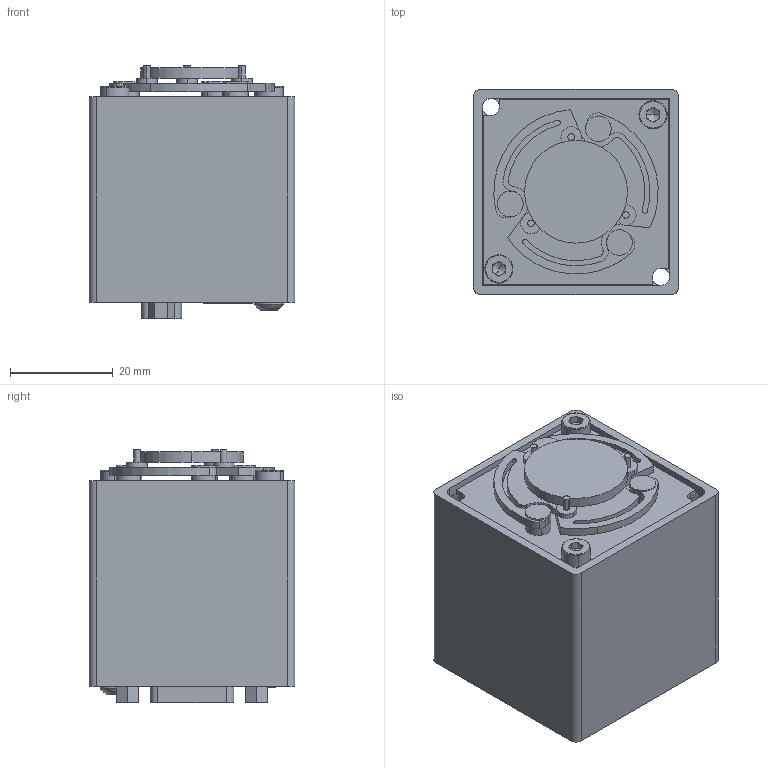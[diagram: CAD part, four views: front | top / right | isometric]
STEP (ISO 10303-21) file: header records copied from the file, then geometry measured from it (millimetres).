
FILE_DESCRIPTION (( 'STEP AP214' ), '1' );
FILE_NAME ('Model3D_CYS-A20.STEP', '2010-09-16T04:15:23', ( '' ), ( '' ), 'SwSTEP 2.0', 'SolidWorks 2011', '' );
FILE_SCHEMA (( 'AUTOMOTIVE_DESIGN' ));
Length unit declared in the file: millimetre
Products named in the file (1): Model3D_CYS-A20
Bounding box: 40 x 40 x 49.28 mm (x, y, z)
Surface area: 15191.8 mm2 (no closed solid volume)
Topology: 0 solids, 13 shells, 266 faces, 795 edges, 534 vertices
Faces by surface type: cylinder 132, plane 111, bspline 11, cone 6, torus 4, sphere 2
Entity records: 12659 total; most frequent: CARTESIAN_POINT 2504, DIRECTION 1604, ORIENTED_EDGE 1332, EDGE_CURVE 789, AXIS2_PLACEMENT_3D 594, VERTEX_POINT 534, LINE 416, VECTOR 416
